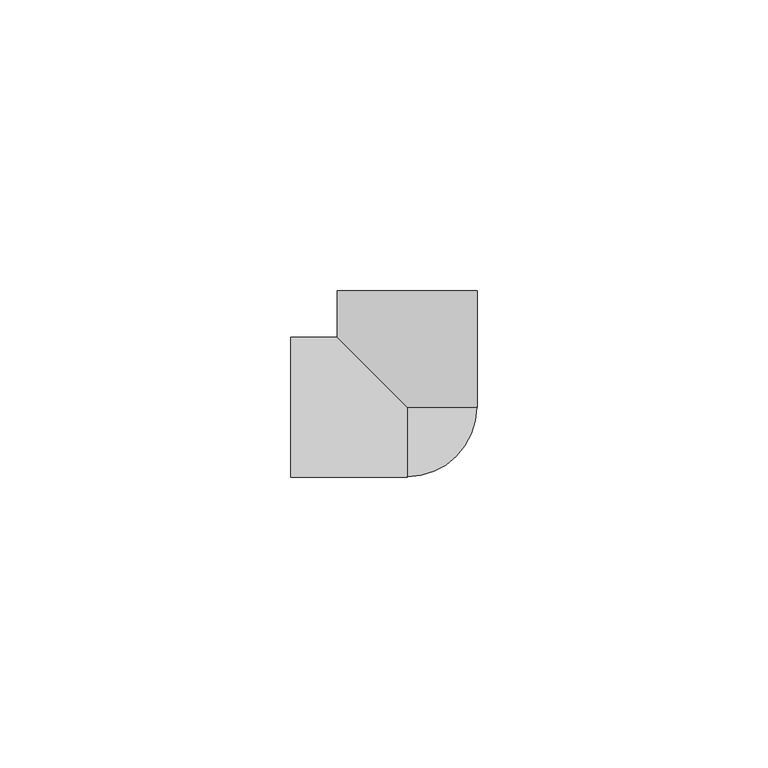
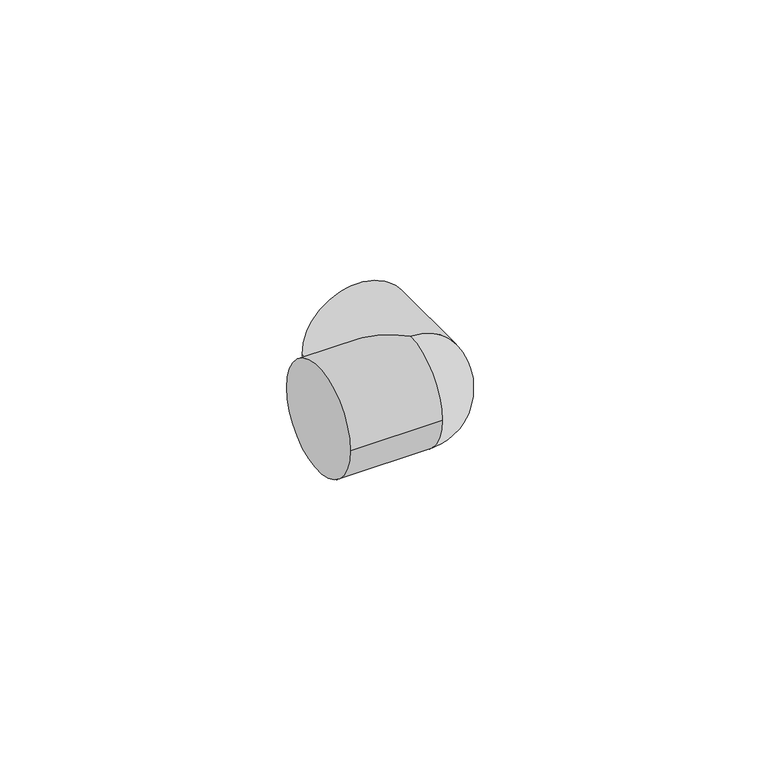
"""IFC4 building model written with IfcOpenShell, lengths in millimetres: pipe fitting geometry, AmancoWavin_Unionesdetubería_TigrisFlexCodo : Tigris K5."""

from ifc_helpers import new_model, si_unit, point, frame, origin, place, context, project, spatial, circle_curve, ellipse_curve, trimmed, source, transform, mapped, element, save
from ifc_brep_helpers import plane_surface, cylinder_surface, revolved_surface, advanced_brep


def pipe_fitting_e157bfc5(model_context):
    return source(origin(), model_context, "Body", "AdvancedBrep", [
        advanced_brep(
        [(12.0, 20.0, 0.0), (-12.0, 20.0, 0.0), (-12.0, 12.0, 0.0), (0.0, 0.0, 12.0), (12.0, 0.0, 0.0), (0.0, 0.0, -12.0), (-20.0, 12.0, 0.0), (-20.0, -12.0, 0.0), (0.0, -12.0, 0.0)],
        [
            (0, 1, circle_curve(frame((0.0, 20.0, 0.0), z_axis=(0.0, 1.0, 0.0), x_axis=(-1.0, 0.0, 0.0)), 12.0)),
            (1, 0, circle_curve(frame((0.0, 20.0, 0.0), z_axis=(0.0, 1.0, 0.0), x_axis=(-1.0, 0.0, 0.0)), 12.0)),
            (1, 2),
            (2, 3, ellipse_curve(frame((0.0, 0.0, 0.0), z_axis=(0.707106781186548, 0.7071067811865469, 0.0), x_axis=(0.7071067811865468, -0.7071067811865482, 0.0)), 16.9705627, 12.0)),
            (3, 4, circle_curve(frame((0.0, 0.0, 0.0), z_axis=(0.0, 1.0, 0.0), x_axis=(-1.0, 0.0, 0.0)), 12.0)),
            (4, 0),
            (4, 5, circle_curve(frame((0.0, 0.0, 0.0), z_axis=(0.0, 1.0, 0.0), x_axis=(-1.0, 0.0, 0.0)), 12.0)),
            (5, 2, ellipse_curve(frame((0.0, 0.0, 0.0), z_axis=(0.707106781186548, 0.7071067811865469, 0.0), x_axis=(0.7071067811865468, -0.7071067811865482, 0.0)), 16.9705627, 12.0)),
            (6, 7, circle_curve(frame((-20.0, 0.0, 0.0), z_axis=(-1.0, 0.0, 0.0), x_axis=(0.0, -1.0, 0.0)), 12.0)),
            (7, 6, circle_curve(frame((-20.0, 0.0, 0.0), z_axis=(-1.0, 0.0, 0.0), x_axis=(0.0, -1.0, 0.0)), 12.0)),
            (7, 8),
            (8, 3, circle_curve(frame((0.0, 0.0, 0.0), z_axis=(-1.0, 0.0, 0.0), x_axis=(0.0, -1.0, 0.0)), 12.0)),
            (2, 6),
            (5, 8, circle_curve(frame((0.0, 0.0, 0.0), z_axis=(-1.0, 0.0, 0.0), x_axis=(0.0, -1.0, 0.0)), 12.0)),
        ],
        [
            plane_surface(frame((0.0, 20.0, 0.0), z_axis=(0.0, 1.0, 0.0), x_axis=(0.0, 0.0, 1.0))),
            cylinder_surface(frame((0.0, 0.0, 0.0), z_axis=(0.0, -1.0, 0.0), x_axis=(-1.0, 0.0, 0.0)), 12.0),
            plane_surface(frame((-20.0, 0.0, 0.0), z_axis=(-1.0, 0.0, 0.0), x_axis=(0.0, 0.0, 1.0))),
            cylinder_surface(frame((0.0, 0.0, 0.0), z_axis=(1.0, 0.0, 0.0), x_axis=(0.0, -1.0, 0.0)), 12.0),
            revolved_surface(trimmed(ellipse_curve(frame((0.0, 0.0, 0.0), z_axis=(1.0, 0.0, 0.0), x_axis=(0.0, 1.0, 0.0)), 12.0, 12.0), [point((0.0, 0.0, 12.0))], [point((0.0, 0.0, -12.0))], True, "CARTESIAN"), (0.0, 0.0, -109.3832781), (0.0, 0.0, -1.0)),
        ],
        [
            (0, [[1, 2]]),
            (1, [[-2, 3, 4, 5, 6]]),
            (1, [[-1, -6, 7, 8, -3]]),
            (2, [[9, 10]]),
            (3, [[-10, 11, 12, -4, 13]]),
            (3, [[-9, -13, -8, 14, -11]]),
            (4, [[-5, -12, -14, -7]]),
        ],
    ),
    ])


if __name__ == "__main__":
    model = new_model("IFC4")
    model_context = context("Model", 3, world=origin())
    ifc_project = project(units=[si_unit("LENGTHUNIT", "METRE", prefix="MILLI")], contexts=[model_context])
    site = spatial("IfcSite", under=ifc_project)
    building = spatial("IfcBuilding", under=site)
    placement = place(None, origin())
    pipe_fitting_shape = pipe_fitting_e157bfc5(model_context)
    element("IfcPipeFitting", 1, ObjectType="AmancoWavin_Unionesdetubería_TigrisFlexCodo : Tigris K5", at=placement, inside=building, context=model_context, shape_type="MappedRepresentation", body=[
        mapped(pipe_fitting_shape, transform((0.0, 0.0, 0.0), x_axis=(1.0, 0.0, 0.0), y_axis=(0.0, 1.0, 0.0), z_axis=(0.0, 0.0, 1.0))),
    ])
    save(model, "model.ifc")
